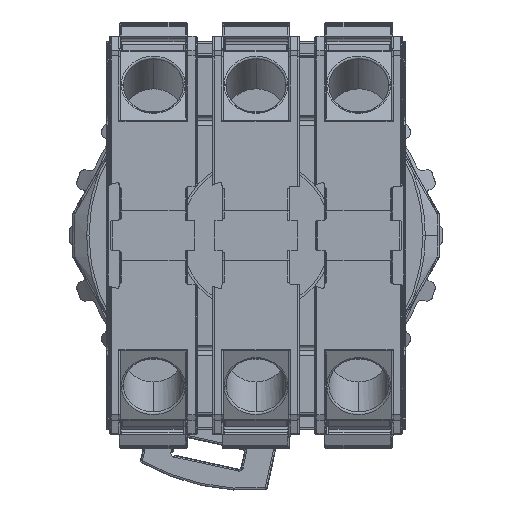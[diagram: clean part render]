
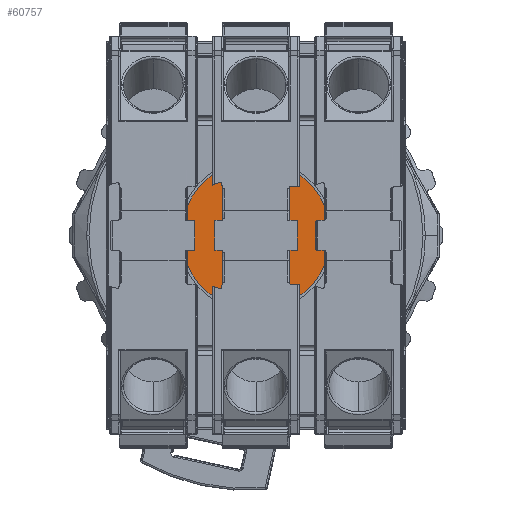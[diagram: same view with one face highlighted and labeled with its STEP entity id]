
A CAD part, front view. The second image highlights one B-rep face of the part: STEP entity #60757.
In plain terms, the highlighted planar face has unit normal (0, 1, 0).
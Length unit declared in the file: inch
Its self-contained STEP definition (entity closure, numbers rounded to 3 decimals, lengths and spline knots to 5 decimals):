
#13353 = DIRECTION ( 'NONE',  ( 1., 0., 0. ) ) ;
#13935 = DIRECTION ( 'NONE',  ( 0., -1., 0. ) ) ;
#15497 = EDGE_CURVE ( 'NONE', #38664, #36924, #88847, .T. ) ;
#29617 = AXIS2_PLACEMENT_3D ( 'NONE', #86955, #33989, #41829 ) ;
#33989 = DIRECTION ( 'NONE',  ( 0., 1., 0. ) ) ;
#35082 = CARTESIAN_POINT ( 'NONE',  ( 0., 3.55512, 0. ) ) ;
#36924 = VERTEX_POINT ( 'NONE', #89212 ) ;
#38339 = EDGE_CURVE ( 'NONE', #36924, #38664, #91561, .T. ) ;
#38664 = VERTEX_POINT ( 'NONE', #87377 ) ;
#41829 = DIRECTION ( 'NONE',  ( 1., 0., 0. ) ) ;
#43230 = ORIENTED_EDGE ( 'NONE', *, *, #15497, .F. ) ;
#49710 = PLANE ( 'NONE',  #29617 ) ;
#58076 = DIRECTION ( 'NONE',  ( 0., -1., 0. ) ) ;
#60757 = ADVANCED_FACE ( 'NONE', ( #62504 ), #49710, .T. ) ;
#62504 = FACE_OUTER_BOUND ( 'NONE', #81365, .T. ) ;
#65440 = CARTESIAN_POINT ( 'NONE',  ( 0., 3.55512, 0. ) ) ;
#74337 = AXIS2_PLACEMENT_3D ( 'NONE', #65440, #58076, #13353 ) ;
#81365 = EDGE_LOOP ( 'NONE', ( #90051, #43230 ) ) ;
#86955 = CARTESIAN_POINT ( 'NONE',  ( 0.24606, 3.55512, 0. ) ) ;
#87278 = AXIS2_PLACEMENT_3D ( 'NONE', #35082, #13935, #88084 ) ;
#87377 = CARTESIAN_POINT ( 'NONE',  ( 0., 3.55512, 0.49213 ) ) ;
#88084 = DIRECTION ( 'NONE',  ( 1., 0., 0. ) ) ;
#88847 = CIRCLE ( 'NONE', #87278, 0.49213 ) ;
#89212 = CARTESIAN_POINT ( 'NONE',  ( 0., 3.55512, -0.49213 ) ) ;
#90051 = ORIENTED_EDGE ( 'NONE', *, *, #38339, .F. ) ;
#91561 = CIRCLE ( 'NONE', #74337, 0.49213 ) ;
